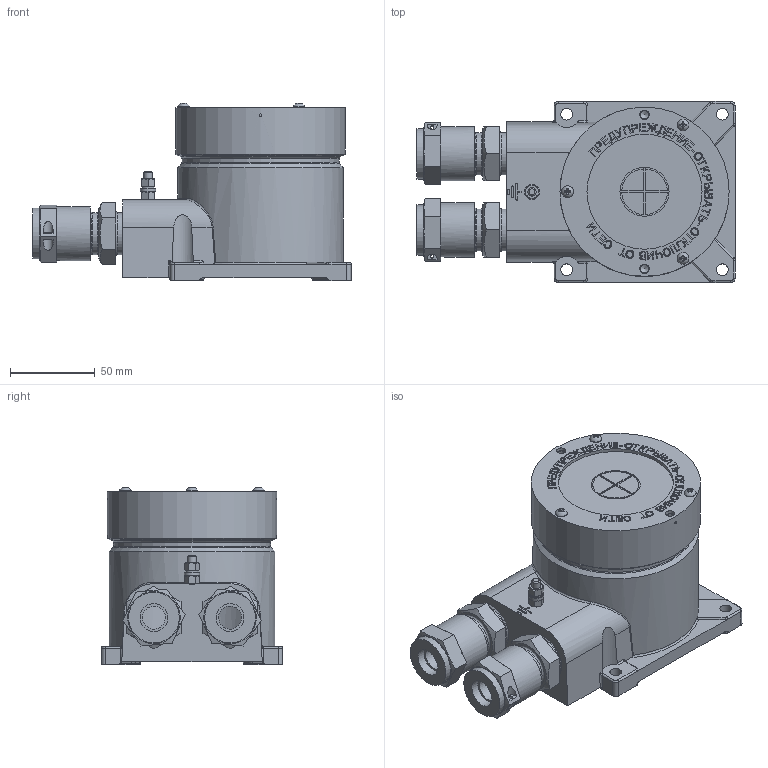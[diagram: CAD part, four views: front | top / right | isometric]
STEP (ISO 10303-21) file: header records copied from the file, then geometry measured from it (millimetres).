
FILE_DESCRIPTION(('STEP AP242'), '1');
FILE_NAME('908.3065.00.000 离桧栝', '', ('UNSPECIFIED'), ('UNSPECIFIED'), 'ASCON STEP Converter 1.6', 'ASCON Math Kernel', '');
FILE_SCHEMA(('AP242_MANAGED_MODEL_BASED_3D_ENGINEERING_MIM_LF { 1 0 10303 442 1 1 4 }'));
Length unit declared in the file: millimetre
Bounding box: 188 x 107 x 105.15 mm (x, y, z)
Volume: 638784.1 mm3; surface area: 121289.4 mm2
Topology: 1 solids, 1 shells, 1644 faces, 4504 edges, 2967 vertices
Faces by surface type: cylinder 825, plane 726, torus 46, cone 38, bspline 6, sphere 3
Full cylindrical faces by diameter (mm): 1.5 x2, 2 x2, 3.242 x1, 5 x6, 5.3 x2, 5.5 x2, 6.5 x1, 7 x7, 9 x2, 13.6 x2, 14 x2, 15 x2, 16.5 x4, 23.752 x1, 24.8 x4, 25.376 x1, 27 x2, 29 x1, 30 x2, 32 x2, 68 x1, 85 x1, 87 x1, 92.8 x1, 95 x1, 98 x1, 100 x1
Entity records: 69805 total; most frequent: CARTESIAN_POINT 13808, DIRECTION 9338, ORIENTED_EDGE 8772, EDGE_CURVE 4386, AXIS2_PLACEMENT_3D 3461, VERTEX_POINT 2964, LINE 2416, VECTOR 2416
